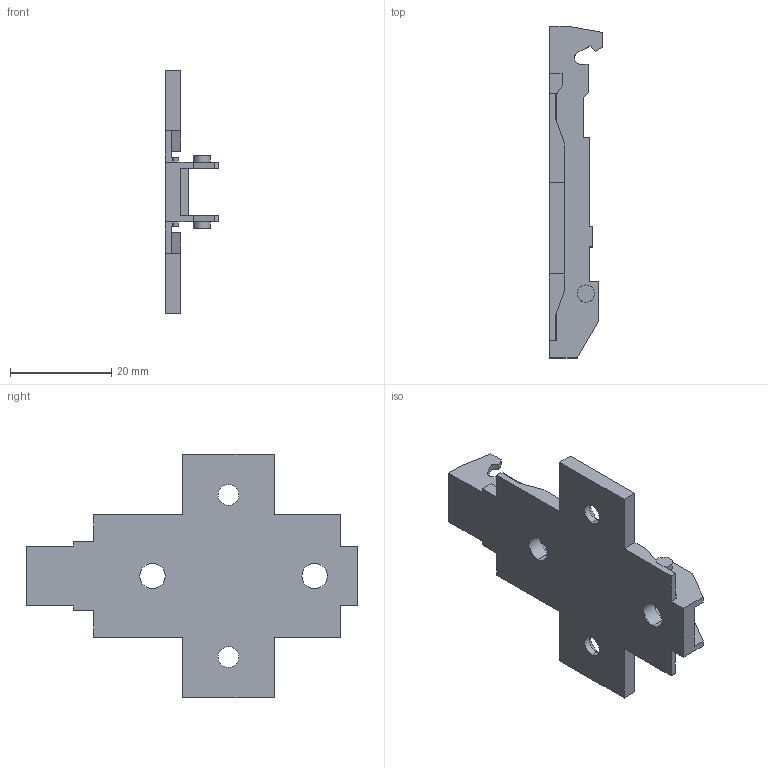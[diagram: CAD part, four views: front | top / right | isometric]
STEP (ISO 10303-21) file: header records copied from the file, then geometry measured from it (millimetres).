
FILE_DESCRIPTION (( 'STEP AP214' ), '1' );
FILE_NAME ('1D_Kreuzmontageplatte 37_32_Spax_0.step', '2018-10-02T12:38:21', ( '' ), ( '' ), 'SwSTEP 2.0', 'SolidWorks 2017', '' );
FILE_SCHEMA (( 'AUTOMOTIVE_DESIGN' ));
Length unit declared in the file: millimetre
Products named in the file (1): 1D_Kreuzmontageplatte 37_32_Spax_0
Bounding box: 10.5 x 65.5 x 48 mm (x, y, z)
Volume: 5647.4 mm3; surface area: 5887.8 mm2
Topology: 1 solids, 1 shells, 106 faces, 302 edges, 200 vertices
Faces by surface type: plane 84, cylinder 18, cone 4
Entity records: 3464 total; most frequent: CARTESIAN_POINT 609, ORIENTED_EDGE 604, DIRECTION 556, EDGE_CURVE 302, LINE 262, VECTOR 262, VERTEX_POINT 200, AXIS2_PLACEMENT_3D 147
